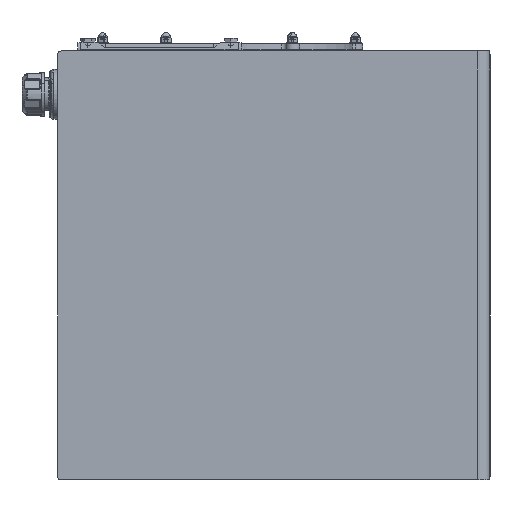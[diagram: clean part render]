
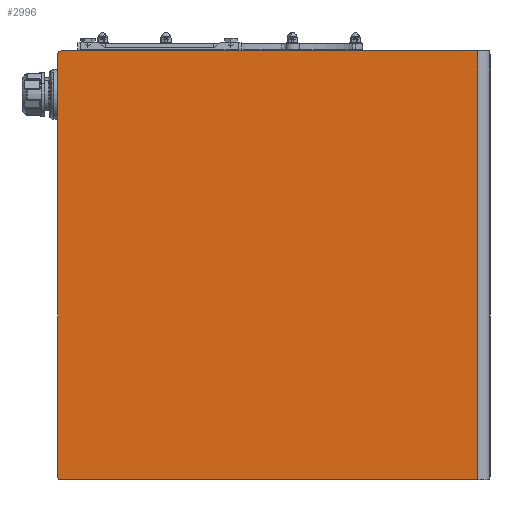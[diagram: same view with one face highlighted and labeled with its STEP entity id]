
A CAD part, left-side view. The second image highlights one B-rep face of the part: STEP entity #2996.
In plain terms, the highlighted planar face has unit normal (-1, 0, 0) as drawn and (0, 0, 1) by its records, which use the part's own axes.
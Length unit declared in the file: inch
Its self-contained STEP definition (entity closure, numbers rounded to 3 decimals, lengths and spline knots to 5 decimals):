
#346 = CIRCLE ( 'NONE', #32189, 0.25 ) ;
#727 = DIRECTION ( 'NONE',  ( -1., 0., 0. ) ) ;
#1634 = CARTESIAN_POINT ( 'NONE',  ( 14.75, 15.125, 0. ) ) ;
#1733 = EDGE_CURVE ( 'NONE', #4713, #19425, #30671, .T. ) ;
#2529 = VERTEX_POINT ( 'NONE', #1634 ) ;
#2766 = CARTESIAN_POINT ( 'NONE',  ( -15., -15.125, 0. ) ) ;
#2996 = ADVANCED_FACE ( 'NONE', ( #4721 ), #25189, .F. ) ;
#3321 = EDGE_CURVE ( 'NONE', #33414, #4713, #19654, .T. ) ;
#4572 = ORIENTED_EDGE ( 'NONE', *, *, #15984, .T. ) ;
#4713 = VERTEX_POINT ( 'NONE', #33167 ) ;
#4721 = FACE_OUTER_BOUND ( 'NONE', #26163, .T. ) ;
#5362 = DIRECTION ( 'NONE',  ( 0., 0., 1. ) ) ;
#5390 = DIRECTION ( 'NONE',  ( 0., 0., 1. ) ) ;
#5572 = DIRECTION ( 'NONE',  ( 0., -1., 0. ) ) ;
#6781 = CIRCLE ( 'NONE', #14599, 0.25 ) ;
#7772 = VECTOR ( 'NONE', #32401, 39.37008 ) ;
#8109 = DIRECTION ( 'NONE',  ( -1., 0., 0. ) ) ;
#9546 = VECTOR ( 'NONE', #13558, 39.37008 ) ;
#10260 = VECTOR ( 'NONE', #727, 39.37008 ) ;
#10414 = ORIENTED_EDGE ( 'NONE', *, *, #35738, .T. ) ;
#11431 = ORIENTED_EDGE ( 'NONE', *, *, #1733, .T. ) ;
#11999 = CARTESIAN_POINT ( 'NONE',  ( -15., 15.125, 0. ) ) ;
#12552 = AXIS2_PLACEMENT_3D ( 'NONE', #28229, #23250, #8109 ) ;
#13260 = DIRECTION ( 'NONE',  ( -1., 0., 0. ) ) ;
#13558 = DIRECTION ( 'NONE',  ( 1., 0., 0. ) ) ;
#14599 = AXIS2_PLACEMENT_3D ( 'NONE', #23025, #5390, #16854 ) ;
#15984 = EDGE_CURVE ( 'NONE', #2529, #20619, #17445, .T. ) ;
#16854 = DIRECTION ( 'NONE',  ( -1., 0., 0. ) ) ;
#17008 = CARTESIAN_POINT ( 'NONE',  ( -14.75, 14.875, 0. ) ) ;
#17445 = LINE ( 'NONE', #11999, #10260 ) ;
#18634 = CARTESIAN_POINT ( 'NONE',  ( 15., -15.125, 0. ) ) ;
#19425 = VERTEX_POINT ( 'NONE', #36955 ) ;
#19654 = LINE ( 'NONE', #2766, #32236 ) ;
#20199 = EDGE_CURVE ( 'NONE', #19425, #35839, #24072, .T. ) ;
#20619 = VERTEX_POINT ( 'NONE', #33030 ) ;
#22435 = CARTESIAN_POINT ( 'NONE',  ( 15., 14.875, 0. ) ) ;
#23025 = CARTESIAN_POINT ( 'NONE',  ( 14.75, 14.875, 0. ) ) ;
#23250 = DIRECTION ( 'NONE',  ( 0., 0., -1. ) ) ;
#23592 = ORIENTED_EDGE ( 'NONE', *, *, #20199, .T. ) ;
#24072 = LINE ( 'NONE', #18634, #7772 ) ;
#25189 = PLANE ( 'NONE',  #12552 ) ;
#25678 = ORIENTED_EDGE ( 'NONE', *, *, #33241, .T. ) ;
#26163 = EDGE_LOOP ( 'NONE', ( #23592, #25678, #4572, #10414, #29130, #11431 ) ) ;
#27857 = CARTESIAN_POINT ( 'NONE',  ( -15., -14.2812, 0. ) ) ;
#28229 = CARTESIAN_POINT ( 'NONE',  ( 0., 0., 0. ) ) ;
#29130 = ORIENTED_EDGE ( 'NONE', *, *, #3321, .T. ) ;
#29992 = CARTESIAN_POINT ( 'NONE',  ( -15., 14.875, 0. ) ) ;
#30671 = LINE ( 'NONE', #27857, #9546 ) ;
#32189 = AXIS2_PLACEMENT_3D ( 'NONE', #17008, #5362, #13260 ) ;
#32236 = VECTOR ( 'NONE', #5572, 39.37008 ) ;
#32401 = DIRECTION ( 'NONE',  ( 0., 1., 0. ) ) ;
#33030 = CARTESIAN_POINT ( 'NONE',  ( -14.75, 15.125, 0. ) ) ;
#33167 = CARTESIAN_POINT ( 'NONE',  ( -15., -14.2812, 0. ) ) ;
#33241 = EDGE_CURVE ( 'NONE', #35839, #2529, #6781, .T. ) ;
#33414 = VERTEX_POINT ( 'NONE', #29992 ) ;
#35738 = EDGE_CURVE ( 'NONE', #20619, #33414, #346, .T. ) ;
#35839 = VERTEX_POINT ( 'NONE', #22435 ) ;
#36955 = CARTESIAN_POINT ( 'NONE',  ( 15., -14.2812, 0. ) ) ;
